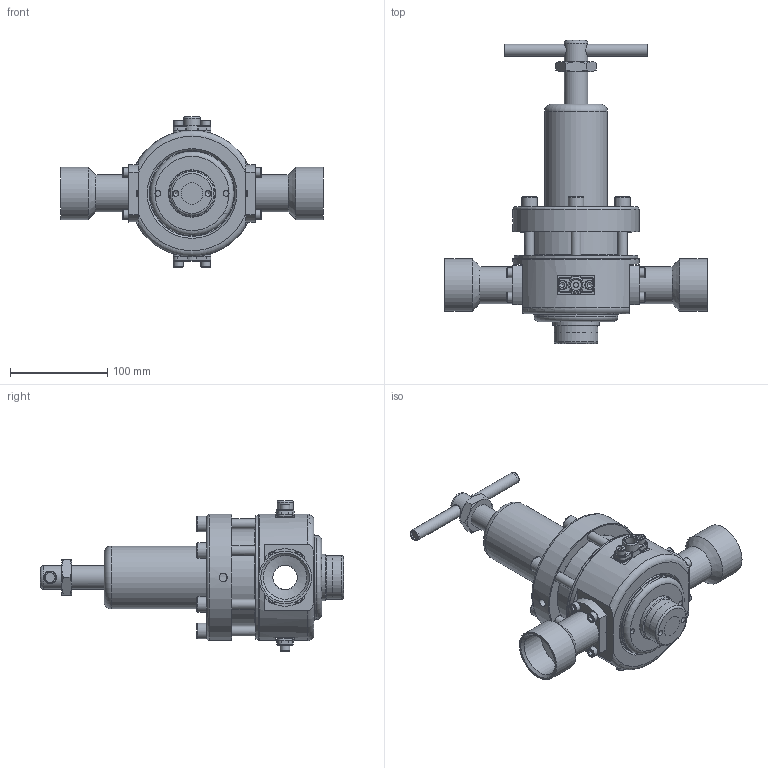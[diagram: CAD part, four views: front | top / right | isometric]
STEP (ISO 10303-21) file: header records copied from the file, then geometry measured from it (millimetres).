
FILE_DESCRIPTION(/* description */ ('Regolatore di pressione 3123'),/* implementation_level */ '2;1');
FILE_NAME(/* name */ 'I:\TEC\Lavoro\ARCHIVIO DISEGNI INVENTOR\WorkSpace\Schizzi\Francesco\1 - AIRCOM MERDA\STEP PER aircomerda\3123# 112 PISTON.stp',/* time_stamp */ '2023-04-19T13:25:26+02:00',/* author */ ('FrancescoLazio'),/* organization */ (''),/* preprocessor_version */ 'ST-DEVELOPER v19',/* originating_system */ 'Autodesk Inventor 2023',/* authorisation */ '');
FILE_SCHEMA (('AUTOMOTIVE_DESIGN { 1 0 10303 214 3 1 1 }'));
Length unit declared in the file: millimetre
Products named in the file (24): C81011; P20579; P34192; P34186; P37131; OR 07075; OR 15121; 0DC10410; P37129; OR 07021; C43013; P43064; P30012; 0DN111; 0DC10620; 0DC10620_1; 0DC10620_2; 0DC10620_3; 0DC10620_4; 0DC10620_5; P31004; P37098; P26110; P37125
Assembly tree (37 placements, depth 3):
  C81011
    0DC10410  x12
    P20579
    P34192
    P34186
    P37131
    OR 07021  x2
    P37125  x2
    OR 07075  x2
    OR 15121
    P37129
    C43013
      P43064
      P30012
      0DN111
    0DC10620
    0DC10620_1
    0DC10620_2
    0DC10620_3
    0DC10620_4
    0DC10620_5
    P31004
    P37098
    P26110
Bounding box: 269 x 311 x 154.1 mm (x, y, z)
Volume: 739335.1 mm3; surface area: 296798.4 mm2
Topology: 36 solids, 36 shells, 736 faces, 1853 edges, 1203 vertices
Faces by surface type: plane 276, cylinder 195, torus 115, cone 100, bspline 50
Full cylindrical faces by diameter (mm): 4.917 x12, 5 x2, 5.6 x1, 6 x16, 6.5 x12, 7.7 x2, 8.376 x6, 8.566 x1, 10 x20, 10.5 x6, 11.2 x2, 11.445 x1, 12 x1, 12.2 x1, 16 x6, 16.5 x1, 21.835 x1, 22 x1, 24 x1, 25 x4, 26 x1, 34.6 x2, 38 x2, 38.5 x2, 44 x1, 44.845 x2, 45 x1, 47.5 x1, 48.5 x1, 50 x1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
Entity records: 21585 total; most frequent: CARTESIAN_POINT 7277, DIRECTION 2846, ORIENTED_EDGE 2764, EDGE_CURVE 1382, AXIS2_PLACEMENT_3D 1212, VERTEX_POINT 903, EDGE_LOOP 675, CIRCLE 625
